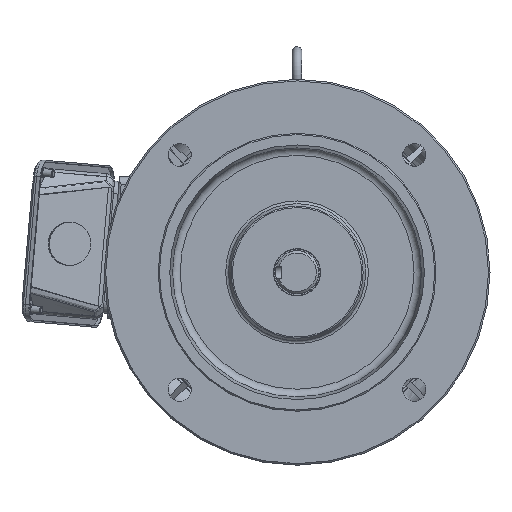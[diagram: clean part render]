
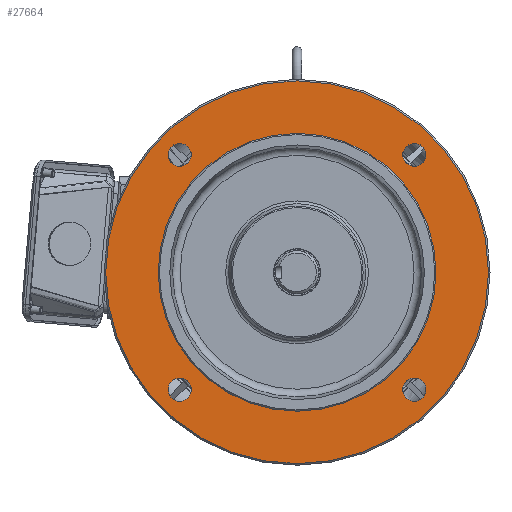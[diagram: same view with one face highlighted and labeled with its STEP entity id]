
A CAD part, front view. The second image highlights one B-rep face of the part: STEP entity #27664.
In plain terms, the highlighted planar face has unit normal (0, -1, 0).
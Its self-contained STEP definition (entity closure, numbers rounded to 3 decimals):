
#935=PLANE('',#29646);
#6150=ORIENTED_EDGE('',*,*,#12639,.T.);
#6151=ORIENTED_EDGE('',*,*,#12640,.F.);
#6152=ORIENTED_EDGE('',*,*,#12641,.F.);
#6153=ORIENTED_EDGE('',*,*,#12642,.F.);
#6154=ORIENTED_EDGE('',*,*,#12643,.F.);
#6155=ORIENTED_EDGE('',*,*,#12638,.F.);
#12638=EDGE_CURVE('',#16032,#16032,#18149,.T.);
#12639=EDGE_CURVE('',#16033,#16033,#18150,.T.);
#12640=EDGE_CURVE('',#16034,#16034,#18151,.T.);
#12641=EDGE_CURVE('',#16035,#16035,#18152,.T.);
#12642=EDGE_CURVE('',#16036,#16036,#18153,.T.);
#12643=EDGE_CURVE('',#16037,#16037,#18154,.T.);
#16032=VERTEX_POINT('',#44088);
#16033=VERTEX_POINT('',#44091);
#16034=VERTEX_POINT('',#44093);
#16035=VERTEX_POINT('',#44095);
#16036=VERTEX_POINT('',#44097);
#16037=VERTEX_POINT('',#44099);
#18149=CIRCLE('',#29645,90.);
#18150=CIRCLE('',#29647,124.);
#18151=CIRCLE('',#29648,7.5);
#18152=CIRCLE('',#29649,7.5);
#18153=CIRCLE('',#29650,7.5);
#18154=CIRCLE('',#29651,7.5);
#19819=EDGE_LOOP('',(#6150));
#19820=EDGE_LOOP('',(#6151));
#19821=EDGE_LOOP('',(#6152));
#19822=EDGE_LOOP('',(#6153));
#19823=EDGE_LOOP('',(#6154));
#19824=EDGE_LOOP('',(#6155));
#21785=FACE_BOUND('',#19819,.T.);
#21786=FACE_BOUND('',#19820,.T.);
#21787=FACE_BOUND('',#19821,.T.);
#21788=FACE_BOUND('',#19822,.T.);
#21789=FACE_BOUND('',#19823,.T.);
#21790=FACE_BOUND('',#19824,.T.);
#27664=ADVANCED_FACE('',(#21785,#21786,#21787,#21788,#21789,#21790),#935,
 .T.);
#29645=AXIS2_PLACEMENT_3D('',#44087,#33641,#33642);
#29646=AXIS2_PLACEMENT_3D('',#44089,#33643,#33644);
#29647=AXIS2_PLACEMENT_3D('',#44090,#33645,#33646);
#29648=AXIS2_PLACEMENT_3D('',#44092,#33647,#33648);
#29649=AXIS2_PLACEMENT_3D('',#44094,#33649,#33650);
#29650=AXIS2_PLACEMENT_3D('',#44096,#33651,#33652);
#29651=AXIS2_PLACEMENT_3D('',#44098,#33653,#33654);
#33641=DIRECTION('',(0.,-1.,0.));
#33642=DIRECTION('',(1.,0.,0.));
#33643=DIRECTION('',(0.,-1.,0.));
#33644=DIRECTION('',(1.,0.,0.));
#33645=DIRECTION('',(0.,-1.,0.));
#33646=DIRECTION('',(1.,0.,0.));
#33647=DIRECTION('',(0.,-1.,0.));
#33648=DIRECTION('',(0.,0.,1.));
#33649=DIRECTION('',(0.,-1.,0.));
#33650=DIRECTION('',(-1.,0.,0.));
#33651=DIRECTION('',(0.,-1.,0.));
#33652=DIRECTION('',(0.,0.,-1.));
#33653=DIRECTION('',(0.,-1.,0.));
#33654=DIRECTION('',(1.,0.,0.));
#44087=CARTESIAN_POINT('',(0.,4.,0.));
#44088=CARTESIAN_POINT('',(90.,4.,0.));
#44089=CARTESIAN_POINT('',(0.,4.,90.));
#44090=CARTESIAN_POINT('',(0.,4.,0.));
#44091=CARTESIAN_POINT('',(124.,4.,0.));
#44092=CARTESIAN_POINT('',(-76.014,4.,-76.014));
#44093=CARTESIAN_POINT('',(-76.014,4.,-68.514));
#44094=CARTESIAN_POINT('',(76.014,4.,-76.014));
#44095=CARTESIAN_POINT('',(68.514,4.,-76.014));
#44096=CARTESIAN_POINT('',(76.014,4.,76.014));
#44097=CARTESIAN_POINT('',(76.014,4.,68.514));
#44098=CARTESIAN_POINT('',(-76.014,4.,76.014));
#44099=CARTESIAN_POINT('',(-68.514,4.,76.014));
